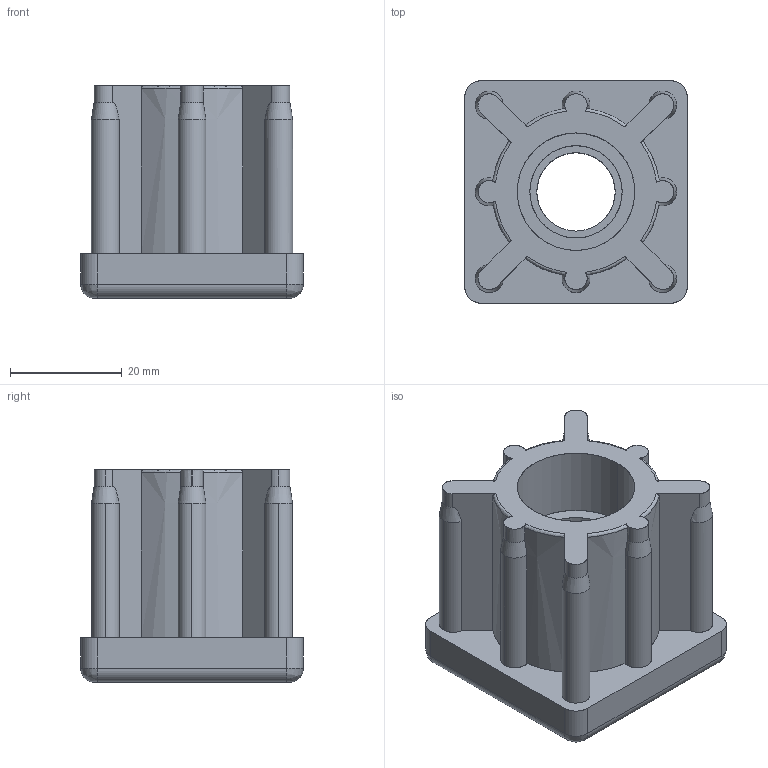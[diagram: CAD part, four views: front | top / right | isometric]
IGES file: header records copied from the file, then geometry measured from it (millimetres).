
Start section: SolidWorks IGES file using analytic representation for surfaces
Global section: file name: Y:\Tecnodin, S.L\Planos Clientes - Documentos\General\PLANOS CLIENTES\3D\-REVISAR-\CONTERAS TECOM\42006840314.IGS; native system: SolidWorks 2018; preprocessor: SolidWorks 2018; author: GerPro; date: 200226.113617; units: millimetre
Bounding box: 39.8 x 39.8 x 38 mm (x, y, z)
Surface area: 11374.5 mm2 (no closed solid volume)
Topology: 0 solids, 0 shells, 107 faces, 1318 edges, 1318 vertices
Faces by surface type: revolution 69, bspline 38
